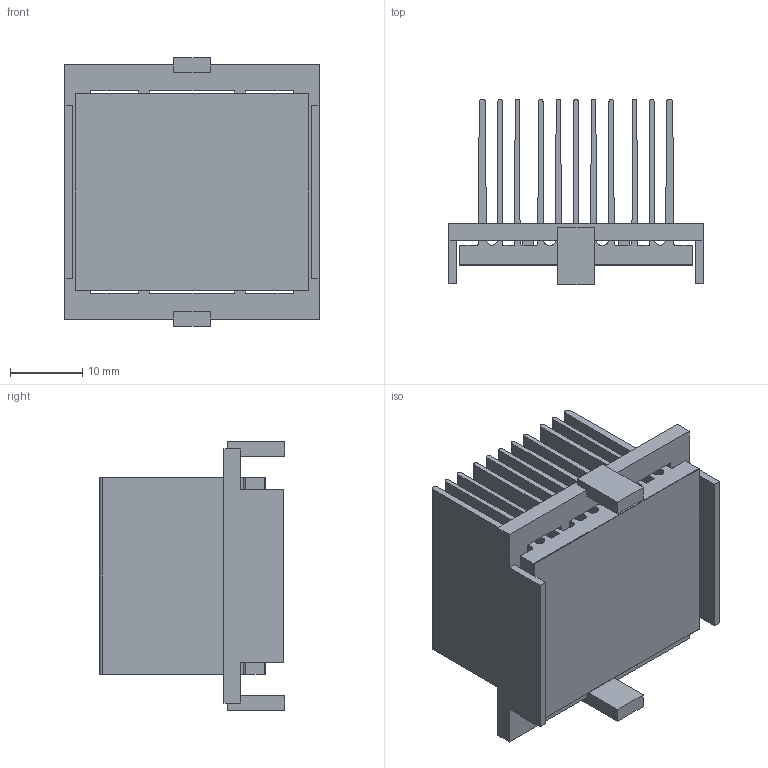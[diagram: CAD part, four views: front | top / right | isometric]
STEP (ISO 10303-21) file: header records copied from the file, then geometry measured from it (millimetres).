
FILE_DESCRIPTION (( 'STEP AP214' ), '1' );
FILE_NAME ('INH33001-23-2.6K33.STEP', '2023-02-17T18:16:03', ( '' ), ( '' ), 'SwSTEP 2.0', 'SolidWorks 2020', '' );
FILE_SCHEMA (( 'AUTOMOTIVE_DESIGN' ));
Length unit declared in the file: millimetre
Products named in the file (1): INH33001-23-2.6K33
Bounding box: 35.2 x 25.66 x 37.2 mm (x, y, z)
Volume: 8605.6 mm3; surface area: 18513.1 mm2
Topology: 3 solids, 3 shells, 126 faces, 360 edges, 240 vertices
Faces by surface type: plane 97, cylinder 29
Entity records: 5524 total; most frequent: CARTESIAN_POINT 727, ORIENTED_EDGE 720, DIRECTION 672, EDGE_CURVE 360, VECTOR 302, LINE 302, VERTEX_POINT 240, AXIS2_PLACEMENT_3D 185
